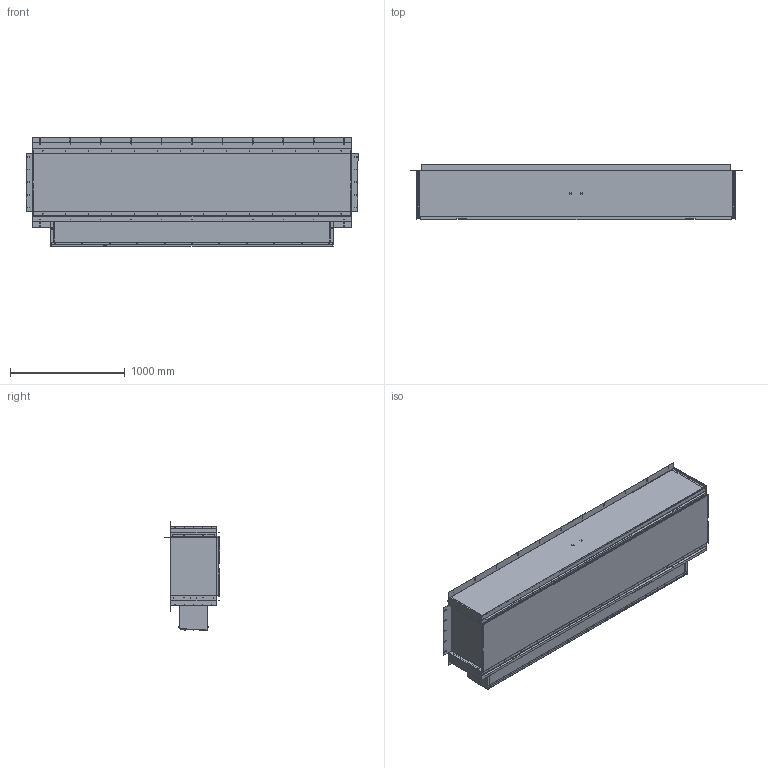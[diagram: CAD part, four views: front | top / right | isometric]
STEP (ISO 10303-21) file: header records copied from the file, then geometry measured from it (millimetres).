
FILE_DESCRIPTION (( 'STEP AP214' ), '1' );
FILE_NAME ('3d_FORMA_2700_Single-Sided_FLA3.STEP', '2022-07-15T10:00:14', ( '' ), ( '' ), 'SwSTEP 2.0', 'SolidWorks 2019', '' );
FILE_SCHEMA (( 'AUTOMOTIVE_DESIGN' ));
Length unit declared in the file: millimetre
Products named in the file (41): Nakrêtka wciskana_Sariv S-S M3-3; 000061618_000061618_106; 3d_FORMA_2700_Single-Sided_FLA3; 000060281_000060281_106; 000057659_000057659_106; hex tapping screws_iso_Tapping Screw ISO 14585 - ST4.2 x 9.5-C-N; 000057657_000057657_106; ok1586; PZ-FLA3XT-0003; 000057000_000057000_106; 000-049-266_000-049-266-2490; 000057660; 000-052-264_000-052-264 (L=1205); B-003-087_B-003-087-2490; 000059948_000059948-2490; 000-056-483_000-056-483_106; 000-049-267_000-049-267-2490; 000060280_000060280_106; 000059906; 024-324-324; 000069177; 000060277_000060277_106; 000-049-326_000-049-326-2490; 000-046-432; 000-056-480_000-056-480_106; 000064026; Ko³ek gwintowany do zgrzewania_ISO 13918 M4x10; 000-050-969_000-050-969-2490; 000059785_000059785-2490; 000-056-471; 000064025; ok1271-08; 000-049-813; ok1585_ok1585-2490; ES-0316_0; 000-056-486_000-056-486_106; 000-056-473_000-056-473_106; 000-042-826_000-042-826-2490; 000060313; 000060275_000060275_106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
Assembly tree (91 placements, depth 4):
  3d_FORMA_2700_Single-Sided_FLA3
    000061618_000061618_106
      000-056-480_000-056-480_106
        000-056-473_000-056-473_106
        000-056-474_000-056-474_106
      000057657_000057657_106
      000057659_000057659_106
      000057660
    000-056-471  x2
    000-056-483_000-056-483_106
    000-056-486_000-056-486_106
    000057000_000057000_106
    000060281_000060281_106
      000060275_000060275_106
      000060277_000060277_106
      000060280_000060280_106
      000060313  x2
      000069177  x2
    000059785_000059785-2490
      000-049-267_000-049-267-2490
        000-049-266_000-049-266-2490
        Ko³ek gwintowany do zgrzewania_ISO 13918 M4x10  x26
        Nakrêtka wciskana_Sariv S-S M3-3  x6
      000-050-969_000-050-969-2490  x2
      000059948_000059948-2490  x2
      000-049-326_000-049-326-2490
      000-042-826_000-042-826-2490  x2
      000-049-813
        024-324-324
        Ko³ek gwintowany do zgrzewania_ISO 13918 M4x10  x2
      ES-0316_0  x6
      000-052-264_000-052-264 (L=1205)  x2
      ok1585_ok1585-2490
        B-003-087_B-003-087-2490
      PZ-FLA3XT-0003
      ok1586
      hex tapping screws_iso_Tapping Screw ISO 14585 - ST4.2 x 9.5-C-N  x2
      000059906
      000-046-432  x4
      ok1271-08  x4
      000064025
      000064026
Bounding box: 2892 x 481 x 949.71 mm (x, y, z)
Volume: 17451647.6 mm3; surface area: 28548270.8 mm2
Topology: 95 solids, 95 shells, 5015 faces, 13432 edges, 8644 vertices
Faces by surface type: cylinder 3003, plane 1697, cone 224, torus 48, bspline 39, sphere 4
Entity records: 135028 total; most frequent: DIRECTION 23976, CARTESIAN_POINT 23589, ORIENTED_EDGE 21840, EDGE_CURVE 10920, AXIS2_PLACEMENT_3D 9140, VERTEX_POINT 7069, EDGE_LOOP 5915, VECTOR 5696
